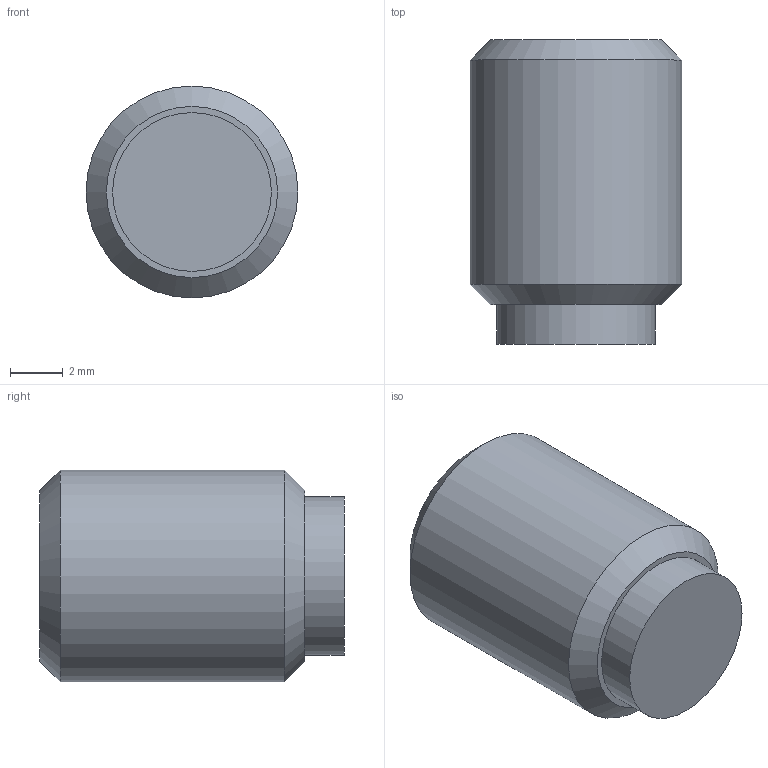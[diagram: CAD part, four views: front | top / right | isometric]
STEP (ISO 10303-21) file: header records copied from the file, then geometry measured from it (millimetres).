
FILE_DESCRIPTION( ( 'STEP AP203' ), '1' );
FILE_NAME( 'C:/Temp/Ganter_Step_05_03_2020/data/3_2/gn913_3/Grub screw GN 913.3-M8-10-MS.stp', '2020-03-13T05:35:49', ( 'License CC BY-ND 4.0' ), ( 'CADENAS' ), ' ', 'PARTsolutions', ' ' );
FILE_SCHEMA( ( 'CONFIG_CONTROL_DESIGN' ) );
Length unit declared in the file: millimetre
Products named in the file (1): _Grub screw GN 913.3-M8-10-MS
Bounding box: 8 x 11.5 x 8 mm (x, y, z)
Volume: 461.9 mm3; surface area: 425.3 mm2
Topology: 1 solids, 1 shells, 14 faces, 28 edges, 18 vertices
Faces by surface type: plane 10, cylinder 2, cone 2
Full cylindrical faces by diameter (mm): 6 x1, 8 x1
Entity records: 386 total; most frequent: DIRECTION 60, CARTESIAN_POINT 57, ORIENTED_EDGE 48, EDGE_CURVE 24, AXIS2_PLACEMENT_3D 21, EDGE_LOOP 20, VERTEX_POINT 18, LINE 18
